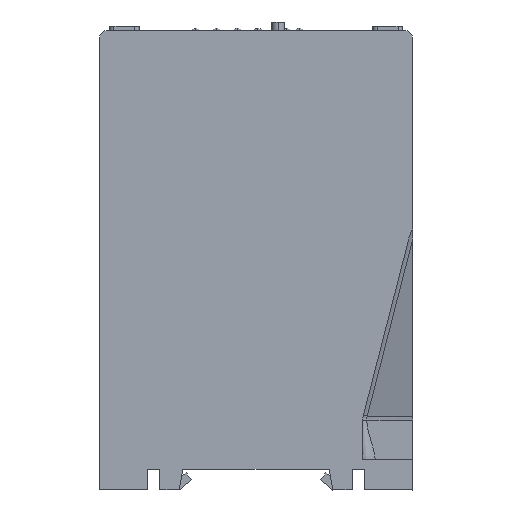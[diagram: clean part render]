
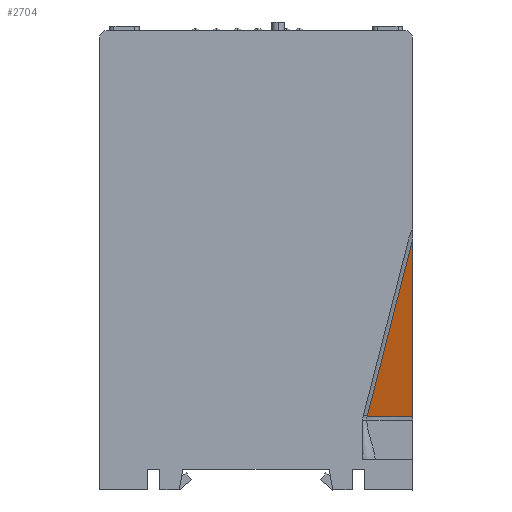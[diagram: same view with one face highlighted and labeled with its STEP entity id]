
A CAD part, left-side view. The second image highlights one B-rep face of the part: STEP entity #2704.
In plain terms, the highlighted planar face has unit normal (-0.968, 0, -0.249).
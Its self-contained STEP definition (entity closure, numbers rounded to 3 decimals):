
#462 = CARTESIAN_POINT ( 'NONE',  ( 0.968, 0., 60.063 ) ) ;
#1004 = EDGE_LOOP ( 'NONE', ( #9942, #9783, #15891 ) ) ;
#2294 = DIRECTION ( 'NONE',  ( -0.249, 0., 0.968 ) ) ;
#2704 = ADVANCED_FACE ( 'NONE', ( #6168 ), #10808, .T. ) ;
#2811 = EDGE_CURVE ( 'NONE', #18141, #11182, #5095, .T. ) ;
#4711 = DIRECTION ( 'NONE',  ( 0., -1., 0. ) ) ;
#4872 = DIRECTION ( 'NONE',  ( -0.249, 0., 0.968 ) ) ;
#5029 = VECTOR ( 'NONE', #4711, 1000. ) ;
#5095 = B_SPLINE_CURVE_WITH_KNOTS ( 'NONE', 3,
 ( #462, #17556, #5944, #12992 ),
 .UNSPECIFIED., .F., .F.,
 ( 4, 4 ),
 ( 0.102, 0.147 ),
 .UNSPECIFIED. ) ;
#5944 = CARTESIAN_POINT ( 'NONE',  ( 8.238, 7.269, 31.819 ) ) ;
#6168 = FACE_OUTER_BOUND ( 'NONE', #1004, .T. ) ;
#6542 = DIRECTION ( 'NONE',  ( -0.968, 0., -0.249 ) ) ;
#6874 = AXIS2_PLACEMENT_3D ( 'NONE', #16480, #6542, #4872 ) ;
#7600 = CARTESIAN_POINT ( 'NONE',  ( 11.872, 11.872, 17.697 ) ) ;
#9263 = CARTESIAN_POINT ( 'NONE',  ( 0.968, 0., 60.063 ) ) ;
#9381 = LINE ( 'NONE', #13453, #17765 ) ;
#9783 = ORIENTED_EDGE ( 'NONE', *, *, #2811, .T. ) ;
#9942 = ORIENTED_EDGE ( 'NONE', *, *, #14267, .T. ) ;
#10002 = CARTESIAN_POINT ( 'NONE',  ( 11.872, 10.904, 17.697 ) ) ;
#10460 = VERTEX_POINT ( 'NONE', #17207 ) ;
#10662 = LINE ( 'NONE', #7600, #5029 ) ;
#10808 = PLANE ( 'NONE',  #6874 ) ;
#11182 = VERTEX_POINT ( 'NONE', #10002 ) ;
#12992 = CARTESIAN_POINT ( 'NONE',  ( 11.872, 10.904, 17.697 ) ) ;
#13453 = CARTESIAN_POINT ( 'NONE',  ( -8.039, 0., 95.063 ) ) ;
#14267 = EDGE_CURVE ( 'NONE', #10460, #18141, #9381, .T. ) ;
#15891 = ORIENTED_EDGE ( 'NONE', *, *, #17817, .T. ) ;
#16480 = CARTESIAN_POINT ( 'NONE',  ( 11.872, 11.872, 17.697 ) ) ;
#17207 = CARTESIAN_POINT ( 'NONE',  ( 11.872, 0., 17.697 ) ) ;
#17556 = CARTESIAN_POINT ( 'NONE',  ( 4.603, 3.635, 45.941 ) ) ;
#17765 = VECTOR ( 'NONE', #2294, 1000. ) ;
#17817 = EDGE_CURVE ( 'NONE', #11182, #10460, #10662, .T. ) ;
#18141 = VERTEX_POINT ( 'NONE', #9263 ) ;
